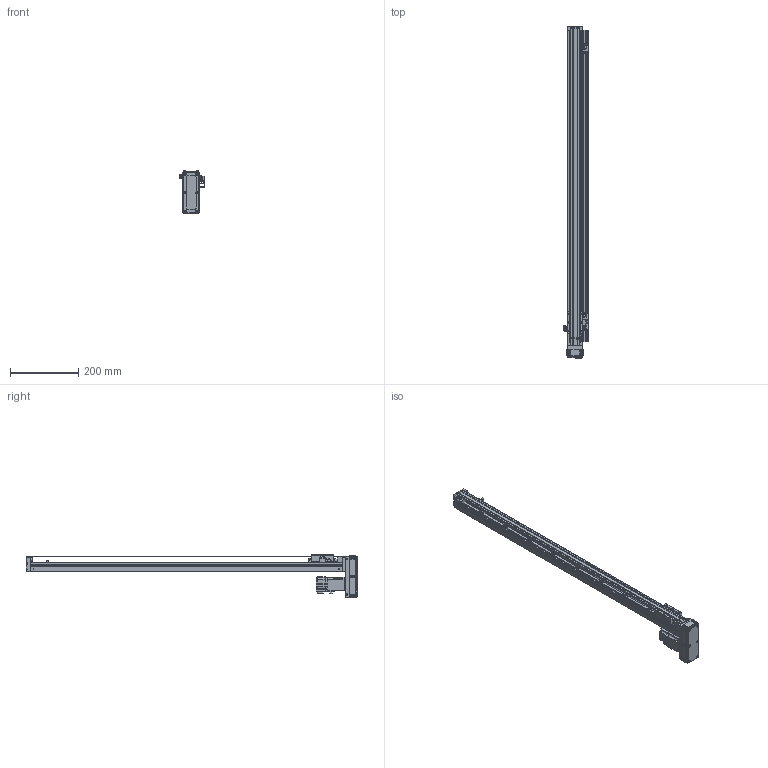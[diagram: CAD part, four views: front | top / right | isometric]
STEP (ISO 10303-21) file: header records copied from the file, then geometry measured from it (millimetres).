
FILE_DESCRIPTION(/* description */ ('MANUFACTURE'),/* implementation_level */ '2;1');
FILE_NAME(/* name */ '\\192.168.0.160\disk1\HAN SHIN Master\B-설계부문\C-표준\B-2024년\BC02-표준도면\+로봇 개선표준도면\표준 승인도 작업 폴더\3D\HG45\HG45병렬\D Type\HG45-D10-N-0800-R10.stp',/* time_stamp */ '2024-04-04T11:22:15+09:00',/* author */ ('User'),/* organization */ (''),/* preprocessor_version */ 'ST-DEVELOPER v18.1',/* originating_system */ 'Autodesk Inventor 2022',/* authorisation */ 'LIP');
FILE_SCHEMA (('AUTOMOTIVE_DESIGN { 1 0 10303 214 3 1 1 }'));
Products named in the file (25): HG45-D10-N-0500-R10 - 간소화; HR45 S BASE; HR45 REAR BLOCK; HR45 FRONT BLOCK; HR45 STOPPER; HR45 SENSOR RAIL; HR45 SENSOR DOG; HC45 - TABLE (SFSR); HR45 UPCOVER-28mm; NIPPLE CAP(신규); hsr_ftht_A-M6F_grease_nipple_joint; HR45 MOTOR PLATE 100W; hg-kr13_; 화살표; EE_SX674A; P30T - 3GT - 9 - 8; P30T - 3GT - 9 - PULLEY; P30T - 3GT - 9 - SOCKET (Φ8); HG45-Belt; ESF1210 NUT; HR45 ACRYL COVER(정면); HR45 LR BELT COVER; HR45 ACRYL COVER(상하면); HC45 D MOTOR PLATE; HR45 ACRYL COVER(측면)
Assembly tree (32 placements, depth 3):
  HG45-D10-N-0500-R10 - 간소화
    HR45 S BASE
    HR45 REAR BLOCK
    HR45 FRONT BLOCK
    HR45 STOPPER  x4
    HR45 SENSOR RAIL
    HR45 SENSOR DOG
    EE_SX674A  x3
    HC45 - TABLE (SFSR)
    HR45 UPCOVER-28mm
    NIPPLE CAP(신규)
    hsr_ftht_A-M6F_grease_nipple_joint
    HR45 MOTOR PLATE 100W
    hg-kr13_
    화살표  x2
    P30T - 3GT - 9 - 8  x2
      P30T - 3GT - 9 - PULLEY
      P30T - 3GT - 9 - SOCKET (Φ8)
    HG45-Belt
    ESF1210 NUT
    HR45 ACRYL COVER(정면)
    HR45 ACRYL COVER(측면)  x2
    HR45 LR BELT COVER
    HR45 ACRYL COVER(상하면)
    HC45 D MOTOR PLATE
Bounding box: 73.96 x 974 x 124 mm (x, y, z)
Volume: 941070.3 mm3; surface area: 527978.3 mm2
Topology: 32 solids, 32 shells, 2828 faces, 7542 edges, 4876 vertices
Faces by surface type: plane 1832, cylinder 824, cone 145, bspline 13, sphere 8, torus 6
Full cylindrical faces by diameter (mm): 1 x1, 2.013 x6, 2.459 x88, 2.5 x4, 3 x11, 3.242 x30, 3.4 x38, 3.5 x29, 4 x9, 4.134 x1, 4.5 x28, 4.917 x2, 5 x2, 5.6 x3, 5.9 x2, 6 x24, 6.5 x6, 8 x19, 9 x4, 10 x1, 12 x1, 13 x1, 15 x1, 17.318 x2, 18 x1, 22 x2, 23 x4, 24 x1, 26 x1, 30 x2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
Entity records: 79900 total; most frequent: CARTESIAN_POINT 15323, ORIENTED_EDGE 13188, DIRECTION 12953, EDGE_CURVE 6594, LINE 4907, VECTOR 4907, VERTEX_POINT 4330, AXIS2_PLACEMENT_3D 4023
